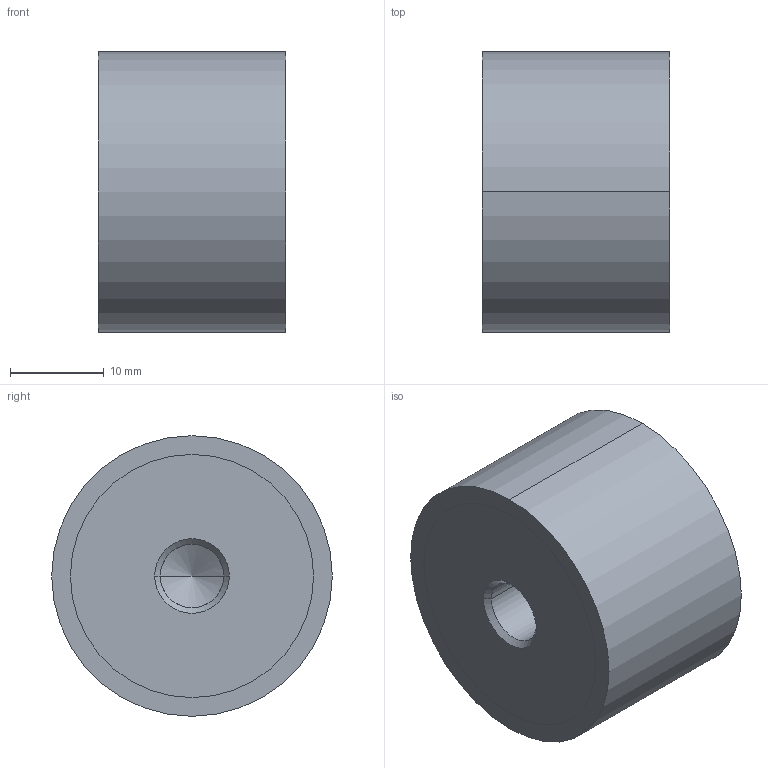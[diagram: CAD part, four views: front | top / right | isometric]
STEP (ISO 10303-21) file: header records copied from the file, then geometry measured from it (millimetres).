
FILE_DESCRIPTION (( 'STEP AP214' ), '1' );
FILE_NAME ('351-30-20-M8-EE-40.step', '2025-07-23T09:55:47', ( '' ), ( '' ), 'SwSTEP 2.0', 'SolidWorks 2022', '' );
FILE_SCHEMA (( 'AUTOMOTIVE_DESIGN' ));
Length unit declared in the file: millimetre
Products named in the file (1): 351-30-20-M8-EE-40
Bounding box: 20 x 30 x 30 mm (x, y, z)
Volume: 13492.7 mm3; surface area: 3638.3 mm2
Topology: 1 solids, 1 shells, 28 faces, 58 edges, 34 vertices
Faces by surface type: cylinder 14, cone 8, plane 6
Entity records: 844 total; most frequent: DIRECTION 144, CARTESIAN_POINT 117, ORIENTED_EDGE 108, AXIS2_PLACEMENT_3D 61, EDGE_CURVE 54, VERTEX_POINT 34, EDGE_LOOP 34, CIRCLE 32
